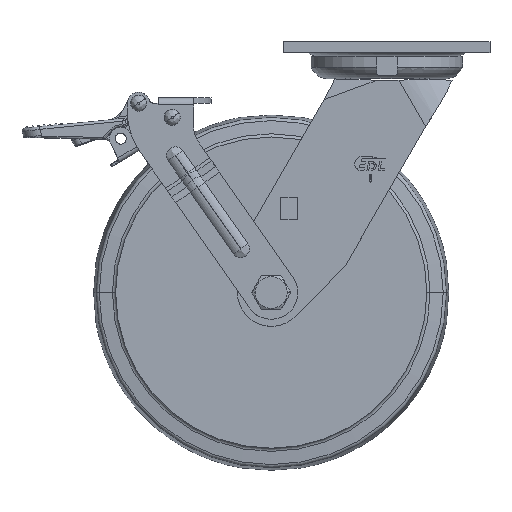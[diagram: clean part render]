
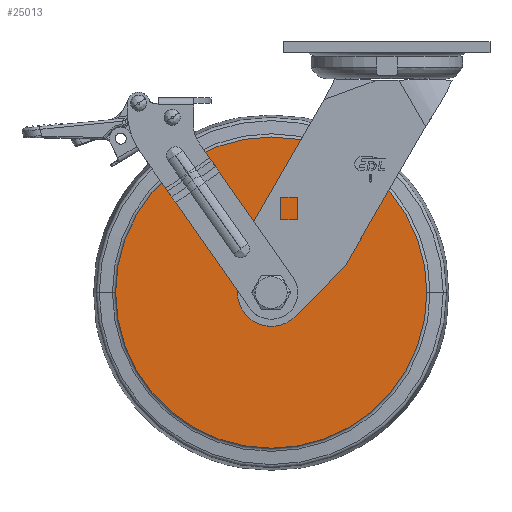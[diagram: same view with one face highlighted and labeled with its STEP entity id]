
A CAD part, top view. The second image highlights one B-rep face of the part: STEP entity #25013.
In plain terms, the highlighted planar face has unit normal (0, 0, 1) as drawn and (-1, 0, 0) by its records, which use the part's own axes.
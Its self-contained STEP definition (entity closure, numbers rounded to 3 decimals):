
#24658=CARTESIAN_POINT('',(-25.,0.,0.));
#24659=DIRECTION('',(-1.,0.,0.));
#24660=DIRECTION('',(0.,1.,0.));
#24661=AXIS2_PLACEMENT_3D('',#24658,#24659,#24660);
#24663=CARTESIAN_POINT('',(-25.,0.,0.));
#24664=DIRECTION('',(1.,0.,0.));
#24665=DIRECTION('',(0.,1.,0.));
#24666=AXIS2_PLACEMENT_3D('',#24663,#24664,#24665);
#24668=CARTESIAN_POINT('',(-25.,0.,0.));
#24669=DIRECTION('',(1.,0.,0.));
#24670=DIRECTION('',(0.,1.,0.));
#24671=AXIS2_PLACEMENT_3D('',#24668,#24669,#24670);
#24681=CARTESIAN_POINT('',(-25.,0.,0.));
#24682=DIRECTION('',(-1.,0.,0.));
#24683=DIRECTION('',(0.,1.,0.));
#24684=AXIS2_PLACEMENT_3D('',#24681,#24682,#24683);
#24932=CARTESIAN_POINT('',(-25.,12.,0.));
#24934=VERTEX_POINT('',#24932);
#24962=CARTESIAN_POINT('',(-25.,87.5,0.));
#24963=VERTEX_POINT('',#24962);
#24964=CARTESIAN_POINT('',(-25.,-12.,0.));
#24966=VERTEX_POINT('',#24964);
#24994=CARTESIAN_POINT('',(-25.,-87.5,0.));
#24995=VERTEX_POINT('',#24994);
#24996=CARTESIAN_POINT('',(-25.,0.,0.));
#24997=DIRECTION('',(1.,0.,0.));
#24998=DIRECTION('',(0.,-1.,0.));
#24999=AXIS2_PLACEMENT_3D('',#24996,#24997,#24998);
#25000=PLANE('',#24999);
#25002=ORIENTED_EDGE('',*,*,#25001,.F.);
#25004=ORIENTED_EDGE('',*,*,#25003,.T.);
#25005=EDGE_LOOP('',(#25002,#25004));
#25006=FACE_OUTER_BOUND('',#25005,.F.);
#25008=ORIENTED_EDGE('',*,*,#25007,.F.);
#25010=ORIENTED_EDGE('',*,*,#25009,.T.);
#25011=EDGE_LOOP('',(#25008,#25010));
#25012=FACE_BOUND('',#25011,.F.);
#24662=CIRCLE('',#24661,87.5);
#24667=CIRCLE('',#24666,87.5);
#24672=CIRCLE('',#24671,12.);
#24685=CIRCLE('',#24684,12.);
#25001=EDGE_CURVE('',#24963,#24995,#24662,.T.);
#25003=EDGE_CURVE('',#24963,#24995,#24667,.T.);
#25007=EDGE_CURVE('',#24934,#24966,#24672,.T.);
#25009=EDGE_CURVE('',#24934,#24966,#24685,.T.);
#25013=ADVANCED_FACE('',(#25006,#25012),#25000,.F.);
